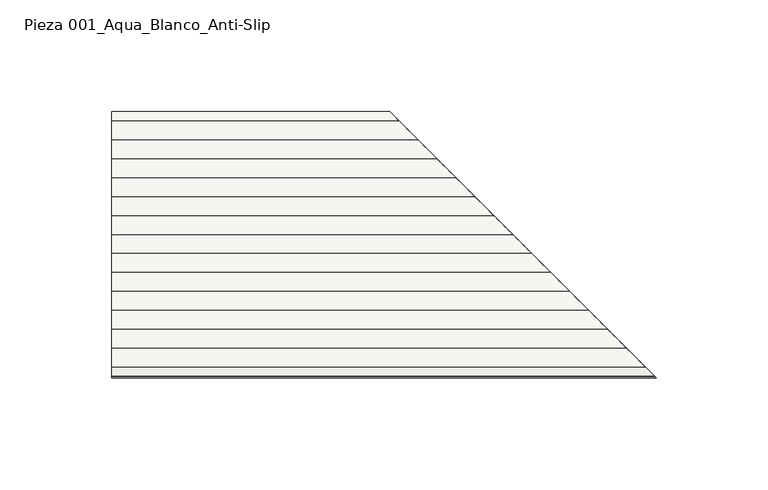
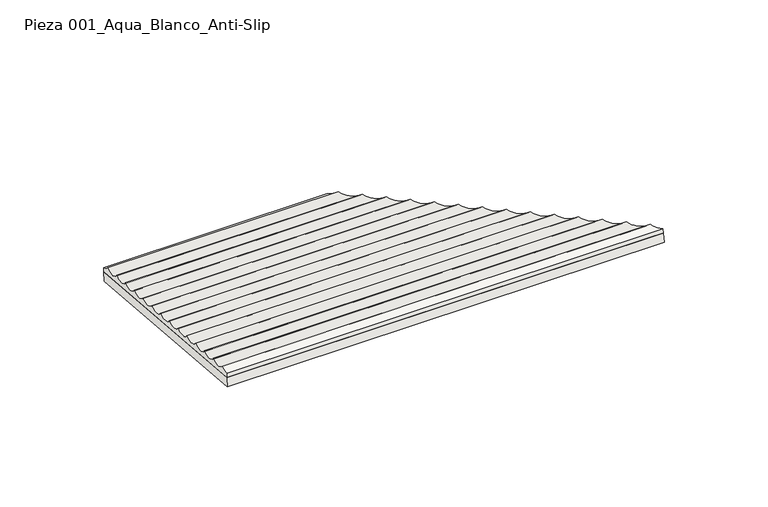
"""IFC4 building model written with IfcOpenShell, lengths in millimetres: slab geometry, ROSA GRES_001 (corte) : Pieza 001_Aqua_Blanco_Anti-Slip."""

import ifcopenshell
import ifcopenshell.guid

model = None  # the IFC model being written
_history = None  # IfcOwnerHistory: only IFC2X3 demands one
_inside = {}  # id of a spatial element -> (the spatial element, [elements in it])
_under = {}  # id of a project, library or spatial element -> (it, [spatial elements below it])
_declared = {}  # id of a project -> (the project, [libraries it declares])
_typed = {}  # id of a type object -> (the type object, [elements of that type])
_made_of = {}  # id of a material, layer set ... -> (it, [elements and type objects made of it])


def new_model(schema):
    """Start an empty IFC model of exactly this schema.

    Asked for "IFC4X3", IfcOpenShell would pick the latest addendum, in which some entities
    have other attributes; the version numbers below select the first issue.
    IFC2X3 requires an IfcOwnerHistory on every rooted entity: one is made here for all.
    """
    global model, _history
    if schema == "IFC4X3":
        model = ifcopenshell.file(schema_version=(4, 3, 0, 0))
    else:
        model = ifcopenshell.file(schema=schema)
    _inside.clear()
    _under.clear()
    _declared.clear()
    _typed.clear()
    _made_of.clear()
    _history = None
    if model.schema == "IFC2X3":
        org = make("IfcOrganization", Name="unknown")
        user = make(
            "IfcPersonAndOrganization",
            ThePerson=make("IfcPerson", FamilyName="unknown"),
            TheOrganization=org,
        )
        app = make(
            "IfcApplication",
            ApplicationDeveloper=org,
            Version="unknown",
            ApplicationFullName="unknown",
            ApplicationIdentifier="unknown",
        )
        _history = make(
            "IfcOwnerHistory",
            OwningUser=user,
            OwningApplication=app,
            ChangeAction="ADDED",
            CreationDate=0,
        )
    return model


def make(cls, **values):
    """One entity of the class cls with the attributes given. An attribute that is None is left unset."""
    return model.create_entity(
        cls, **{name: value for name, value in values.items() if value is not None}
    )


def rooted(cls, **values):
    """An entity with a GlobalId (a new one), such as an element, a storey or a relation."""
    return make(cls, GlobalId=ifcopenshell.guid.new(), OwnerHistory=_history, **values)


def si_unit(unit_type, name, prefix=None):
    """IfcSIUnit, for example si_unit("LENGTHUNIT", "METRE", prefix="MILLI")."""
    return make("IfcSIUnit", UnitType=unit_type, Prefix=prefix, Name=name)


def assignment(units):
    """IfcUnitAssignment: the units of a project."""
    return None if units is None else make("IfcUnitAssignment", Units=units)


def point(xyz):
    """IfcCartesianPoint."""
    return None if xyz is None else make("IfcCartesianPoint", Coordinates=xyz)


def direction(xyz):
    """IfcDirection."""
    return None if xyz is None else make("IfcDirection", DirectionRatios=xyz)


def frame(location, z_axis=None, x_axis=None):
    """IfcAxis2Placement3D, a coordinate frame: its origin and axes. An axis left out is left unset."""
    return make(
        "IfcAxis2Placement3D",
        Location=point(location),
        Axis=direction(z_axis),
        RefDirection=direction(x_axis),
    )


def origin():
    """The frame at (0, 0, 0) with its axes left unset."""
    return frame((0.0, 0.0, 0.0))


def place(relative_to, where):
    """IfcLocalPlacement: puts the frame where relative to a parent placement (None: the world)."""
    return make(
        "IfcLocalPlacement", PlacementRelTo=relative_to, RelativePlacement=where
    )


def context(
    kind, dimensions, precision=None, world=None, true_north=None, identifier=None
):
    """IfcGeometricRepresentationContext, for example the 3D "Model" context."""
    return make(
        "IfcGeometricRepresentationContext",
        ContextIdentifier=identifier,
        ContextType=kind,
        CoordinateSpaceDimension=dimensions,
        Precision=precision,
        WorldCoordinateSystem=world,
        TrueNorth=true_north,
    )


def project(units=None, contexts=None):
    """IfcProject with its units and contexts."""
    return rooted(
        "IfcProject",
        Name="project",
        RepresentationContexts=contexts,
        UnitsInContext=assignment(units),
    )


def spatial(cls, under=None, at=None, **own):
    """A site, building, storey or space (cls), placed at a placement, below another one or the project."""
    s = rooted(cls, ObjectPlacement=at, **own)
    if under is not None:
        _under.setdefault(under.id(), (under, []))[1].append(s)
    return s


def polyline(points):
    """IfcPolyline through the points."""
    return make("IfcPolyline", Points=[point(p) for p in points])


def circle_curve(where, radius):
    """IfcCircle in the frame where."""
    return make("IfcCircle", Position=where, Radius=radius)


def ellipse_curve(where, semi_axis1, semi_axis2):
    """IfcEllipse in the frame where."""
    return make(
        "IfcEllipse", Position=where, SemiAxis1=semi_axis1, SemiAxis2=semi_axis2
    )


def faces_of(points, faces, orient=None, outer=None):
    """IfcFace entities. A face is a list of loops; a loop is a list of indices into points, from 0.

    orient and outer hold one flag for each loop. By default every Orientation is true, the
    first loop of a face is its IfcFaceOuterBound and the others are IfcFaceBound.
    """
    made = []
    for i, loops in enumerate(faces):
        bounds = []
        for j, loop in enumerate(loops):
            is_outer = j == 0 if outer is None else outer[i][j]
            bounds.append(
                make(
                    "IfcFaceOuterBound" if is_outer else "IfcFaceBound",
                    Bound=make("IfcPolyLoop", Polygon=[points[k] for k in loop]),
                    Orientation=True if orient is None else orient[i][j],
                )
            )
        made.append(make("IfcFace", Bounds=bounds))
    return made


def faceted_brep(points, faces, orient=None, outer=None, voids=None):
    """IfcFacetedBrep: a solid bounded by flat faces; with voids (closed shells), ...WithVoids."""
    shared = [point(p) for p in points]
    hull = make("IfcClosedShell", CfsFaces=faces_of(shared, faces, orient, outer))
    if voids is None:
        return make("IfcFacetedBrep", Outer=hull)
    return make(
        "IfcFacetedBrepWithVoids",
        Outer=hull,
        Voids=[
            make(cls, CfsFaces=faces_of(shared, fs, o, b)) for cls, fs, o, b in voids
        ],
    )


def shape(context_of_items, identifier, shape_type, items):
    """IfcShapeRepresentation: the items that make up one representation, for example the "Body"."""
    return make(
        "IfcShapeRepresentation",
        ContextOfItems=context_of_items,
        RepresentationIdentifier=identifier,
        RepresentationType=shape_type,
        Items=items,
    )


def source(mapping_origin, context_of_items, identifier, shape_type, items):
    """IfcRepresentationMap: a shape defined once, which mapped items show again and again."""
    return make(
        "IfcRepresentationMap",
        MappingOrigin=mapping_origin,
        MappedRepresentation=shape(context_of_items, identifier, shape_type, items),
    )


def transform(
    local_origin,
    x_axis=None,
    y_axis=None,
    z_axis=None,
    scale=None,
    scale2=None,
    scale3=None,
    uniform=True,
):
    """IfcCartesianTransformationOperator3D, or its non-uniform kind. x_axis, y_axis, z_axis: its Axis1, 2, 3."""
    if uniform:
        return make(
            "IfcCartesianTransformationOperator3D",
            Axis1=direction(x_axis),
            Axis2=direction(y_axis),
            LocalOrigin=point(local_origin),
            Scale=scale,
            Axis3=direction(z_axis),
        )
    return make(
        "IfcCartesianTransformationOperator3DnonUniform",
        Axis1=direction(x_axis),
        Axis2=direction(y_axis),
        LocalOrigin=point(local_origin),
        Scale=scale,
        Axis3=direction(z_axis),
        Scale2=scale2,
        Scale3=scale3,
    )


def mapped(mapping_source, mapping_target):
    """IfcMappedItem: shows the shape of a source again, moved by a transform."""
    return make(
        "IfcMappedItem", MappingSource=mapping_source, MappingTarget=mapping_target
    )


def made_of(thing, what):
    """Note that an element or type object is made of a material, layer set ...; save() writes the relation."""
    if what is not None:
        _made_of.setdefault(what.id(), (what, []))[1].append(thing)
    return thing


def element(
    cls,
    number,
    at=None,
    inside=None,
    cuts=None,
    type_object=None,
    material=None,
    context=None,
    identifier="Body",
    shape_type=None,
    held_by="IfcProductDefinitionShape",
    body=None,
    shapes=None,
    **own,
):
    """One element of the class cls, such as IfcWall. Its Tag is "e" and its number.

    at: its placement. inside: the storey or other place that contains it. cuts: it is an
    opening in that element (IfcRelVoidsElement). A single representation is given by context,
    identifier, shape_type and body (its items); several are given by shapes. held_by: the class
    of the entity that holds the representations. save() writes the other relations.
    """
    e = rooted(cls, Tag="e%d" % number, ObjectPlacement=at, **own)
    if body is not None:
        shapes = [shape(context, identifier, shape_type, body)]
    if shapes is not None:
        e.Representation = make(held_by, Representations=shapes)
    if inside is not None:
        _inside.setdefault(inside.id(), (inside, []))[1].append(e)
    if cuts is not None:
        rooted(
            "IfcRelVoidsElement", RelatingBuildingElement=cuts, RelatedOpeningElement=e
        )
    if type_object is not None:
        _typed.setdefault(type_object.id(), (type_object, []))[1].append(e)
    return made_of(e, material)


def aggregate(whole, parts):
    """IfcRelAggregates: a whole, such as a stair, and the parts it consists of."""
    return rooted("IfcRelAggregates", RelatingObject=whole, RelatedObjects=parts)


def save(model, path):
    """Write the relations noted so far, then the file.

    IfcRelAggregates (storeys below a building ...), IfcRelContainedInSpatialStructure (elements
    in a storey), IfcRelDefinesByType, IfcRelAssociatesMaterial and IfcRelDeclares: one each for
    every whole, place, type object, material and project.
    """
    for whole, parts in _under.values():
        aggregate(whole, parts)
    for where, things in _inside.values():
        rooted(
            "IfcRelContainedInSpatialStructure",
            RelatedElements=things,
            RelatingStructure=where,
        )
    for kind, things in _typed.values():
        rooted("IfcRelDefinesByType", RelatedObjects=things, RelatingType=kind)
    for what, things in _made_of.values():
        rooted("IfcRelAssociatesMaterial", RelatedObjects=things, RelatingMaterial=what)
    for by, libraries in _declared.values():
        rooted("IfcRelDeclares", RelatingContext=by, RelatedDefinitions=libraries)
    model.write(path)


def plane_surface(at):
    """IfcPlane: the flat surface through the origin of the frame at, square to its z axis."""
    return make("IfcPlane", Position=at)


def revolved_surface(curve, axis_point, axis_direction):
    """IfcSurfaceOfRevolution: the curve turned about the line through axis_point along axis_direction."""
    return make(
        "IfcSurfaceOfRevolution",
        SweptCurve=make("IfcArbitraryOpenProfileDef", ProfileType="CURVE", Curve=curve),
        AxisPosition=make("IfcAxis1Placement", Location=point(axis_point), Axis=direction(axis_direction)),
    )


def advanced_brep(points, edges, surfaces, faces):
    """IfcAdvancedBrep: a solid bounded by faces that lie on surfaces and meet in shared edges.

    An edge is (start, end): straight between two places in points (the first is 0);
    or (start, end, curve); or (start, end, curve, False) where it runs against its curve.
    A face is (place in surfaces, loops), or (place, loops, False) where it looks against
    its surface's normal. A loop lists edges by number (the first is 1), with a minus sign
    where the edge is run from its end to its start. The first loop is the outer one.
    """
    corners = [point(p) for p in points]
    vertices = [make("IfcVertexPoint", VertexGeometry=c) for c in corners]
    made = []
    for start, end, *more in edges:
        made.append(
            make(
                "IfcEdgeCurve",
                EdgeStart=vertices[start],
                EdgeEnd=vertices[end],
                EdgeGeometry=more[0] if more else make("IfcPolyline", Points=[corners[start], corners[end]]),
                SameSense=more[1] if len(more) > 1 else True,
            )
        )
    hull = []
    for where, loops, *sense in faces:
        bounds = []
        for j, loop in enumerate(loops):
            ring = [make("IfcOrientedEdge", EdgeElement=made[abs(k) - 1], Orientation=k > 0) for k in loop]
            bounds.append(
                make(
                    "IfcFaceOuterBound" if j == 0 else "IfcFaceBound",
                    Bound=make("IfcEdgeLoop", EdgeList=ring),
                    Orientation=True,
                )
            )
        hull.append(make("IfcAdvancedFace", Bounds=bounds, FaceSurface=surfaces[where], SameSense=sense[0] if sense else True))
    return make("IfcAdvancedBrep", Outer=make("IfcClosedShell", CfsFaces=hull))


def pieza_001_aqua_blanco_anti_slip_24dbb15d(model_context):
    return source(origin(), model_context, "Body", "SolidModel", [
        faceted_brep([(0.0, -119.2261842, 9.6540866), (0.0, -118.820549, 14.6376055), (0.0, -0.2131992, 4.9835188), (0.0, -0.6188345, 0.0), (124.8926503, -0.6188345, 0.0), (243.5, -119.2261842, 9.6540866), (124.487015, -0.2131992, 4.9835188), (243.0943647, -118.820549, 14.6376055)], [[[0, 1, 2, 3]], [[3, 4, 5, 0]], [[2, 6, 4, 3]], [[0, 5, 7, 1]], [[1, 7, 6, 2]], [[4, 6, 7, 5]]]),
        advanced_brep(
        [(0.0, -118.820549, 14.6376055), (0.0, -118.6073497, 17.2569102), (0.0, -114.2125181, 18.8637671), (0.0, -105.7405645, 18.1741895), (0.0, -97.268611, 17.4846119), (0.0, -88.7966574, 16.7950343), (0.0, -80.3247039, 16.1054567), (0.0, -71.8527503, 15.415879), (0.0, -63.3807968, 14.7263014), (0.0, -54.9088432, 14.0367238), (0.0, -46.4368897, 13.3471462), (0.0, -37.9649361, 12.6575686), (0.0, -29.4929825, 11.967991), (0.0, -21.021029, 11.2784133), (0.0, -12.5490754, 10.5888357), (0.0, -4.0771219, 9.8992581), (0.0, 0.0, 7.6028236), (0.0, -0.2131992, 4.9835188), (124.487015, -0.2131992, 4.9835188), (243.0943647, -118.820549, 14.6376055), (124.2738158, 0.0, 7.6028236), (128.3509377, -4.0771219, 9.8992581), (136.8228912, -12.5490754, 10.5888357), (145.2948448, -21.021029, 11.2784133), (153.7667983, -29.4929825, 11.967991), (162.2387519, -37.9649361, 12.6575686), (170.7107054, -46.4368897, 13.3471462), (179.182659, -54.9088432, 14.0367238), (187.6546125, -63.3807968, 14.7263014), (196.1265661, -71.8527503, 15.415879), (204.5985196, -80.3247039, 16.1054567), (213.0704732, -88.7966574, 16.7950343), (221.5424268, -97.268611, 17.4846119), (230.0143803, -105.7405645, 18.1741895), (238.4863339, -114.2125181, 18.8637671), (242.8811655, -118.6073497, 17.2569102)],
        [
            (0, 1),
            (1, 2, circle_curve(frame((0.0, -118.1537465, 22.8297505), z_axis=(1.0, 0.0, 0.0), x_axis=(0.0, -1.0, 0.0)), 5.5912705)),
            (2, 3, circle_curve(frame((0.0, -109.6817929, 22.1401729), z_axis=(1.0, 0.0, 0.0), x_axis=(0.0, -1.0, 0.0)), 5.5912705)),
            (3, 4, circle_curve(frame((0.0, -101.2098393, 21.4505953), z_axis=(1.0, 0.0, 0.0), x_axis=(0.0, -1.0, 0.0)), 5.5912705)),
            (4, 5, circle_curve(frame((0.0, -92.7378858, 20.7610177), z_axis=(1.0, 0.0, 0.0), x_axis=(0.0, -1.0, 0.0)), 5.5912705)),
            (5, 6, circle_curve(frame((0.0, -84.2659322, 20.0714401), z_axis=(1.0, 0.0, 0.0), x_axis=(0.0, -1.0, 0.0)), 5.5912705)),
            (6, 7, circle_curve(frame((0.0, -75.7939787, 19.3818624), z_axis=(1.0, 0.0, 0.0), x_axis=(0.0, -1.0, 0.0)), 5.5912705)),
            (7, 8, circle_curve(frame((0.0, -67.3220251, 18.6922848), z_axis=(1.0, 0.0, 0.0), x_axis=(0.0, -1.0, 0.0)), 5.5912705)),
            (8, 9, circle_curve(frame((0.0, -58.8500716, 18.0027072), z_axis=(1.0, 0.0, 0.0), x_axis=(0.0, -1.0, 0.0)), 5.5912705)),
            (9, 10, circle_curve(frame((0.0, -50.378118, 17.3131296), z_axis=(1.0, 0.0, 0.0), x_axis=(0.0, -1.0, 0.0)), 5.5912705)),
            (10, 11, circle_curve(frame((0.0, -41.9061645, 16.623552), z_axis=(1.0, 0.0, 0.0), x_axis=(0.0, -1.0, 0.0)), 5.5912705)),
            (11, 12, circle_curve(frame((0.0, -33.4342109, 15.9339744), z_axis=(1.0, 0.0, 0.0), x_axis=(0.0, -1.0, 0.0)), 5.5912705)),
            (12, 13, circle_curve(frame((0.0, -24.9622574, 15.2443968), z_axis=(1.0, 0.0, 0.0), x_axis=(0.0, -1.0, 0.0)), 5.5912705)),
            (13, 14, circle_curve(frame((0.0, -16.4903038, 14.5548191), z_axis=(1.0, 0.0, 0.0), x_axis=(0.0, -1.0, 0.0)), 5.5912705)),
            (14, 15, circle_curve(frame((0.0, -8.0183503, 13.8652415), z_axis=(1.0, 0.0, 0.0), x_axis=(0.0, -1.0, 0.0)), 5.5912705)),
            (15, 16, circle_curve(frame((0.0, 0.4536033, 13.1756639), z_axis=(1.0, 0.0, 0.0), x_axis=(0.0, -1.0, 0.0)), 5.5912705)),
            (16, 17),
            (17, 0),
            (17, 18),
            (18, 19),
            (19, 0),
            (16, 20),
            (20, 18),
            (15, 21),
            (21, 20, ellipse_curve(frame((123.8202125, 0.4536033, 13.1756639), z_axis=(0.7071067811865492, 0.7071067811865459, 0.0), x_axis=(0.7071067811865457, -0.7071067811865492, 0.0)), 7.9072505, 5.5912705)),
            (14, 22),
            (22, 21, ellipse_curve(frame((132.2921661, -8.0183503, 13.8652415), z_axis=(0.7071067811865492, 0.7071067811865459, 0.0), x_axis=(0.7071067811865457, -0.7071067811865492, 0.0)), 7.9072505, 5.5912705)),
            (13, 23),
            (23, 22, ellipse_curve(frame((140.7641196, -16.4903038, 14.5548191), z_axis=(0.7071067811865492, 0.7071067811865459, 0.0), x_axis=(0.7071067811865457, -0.7071067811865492, 0.0)), 7.9072505, 5.5912705)),
            (12, 24),
            (24, 23, ellipse_curve(frame((149.2360732, -24.9622574, 15.2443968), z_axis=(0.7071067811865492, 0.7071067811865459, 0.0), x_axis=(0.7071067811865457, -0.7071067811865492, 0.0)), 7.9072505, 5.5912705)),
            (11, 25),
            (25, 24, ellipse_curve(frame((157.7080267, -33.4342109, 15.9339744), z_axis=(0.7071067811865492, 0.7071067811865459, 0.0), x_axis=(0.7071067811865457, -0.7071067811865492, 0.0)), 7.9072505, 5.5912705)),
            (10, 26),
            (26, 25, ellipse_curve(frame((166.1799803, -41.9061645, 16.623552), z_axis=(0.7071067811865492, 0.7071067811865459, 0.0), x_axis=(0.7071067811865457, -0.7071067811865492, 0.0)), 7.9072505, 5.5912705)),
            (9, 27),
            (27, 26, ellipse_curve(frame((174.6519338, -50.378118, 17.3131296), z_axis=(0.7071067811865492, 0.7071067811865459, 0.0), x_axis=(0.7071067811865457, -0.7071067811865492, 0.0)), 7.9072505, 5.5912705)),
            (8, 28),
            (28, 27, ellipse_curve(frame((183.1238874, -58.8500716, 18.0027072), z_axis=(0.7071067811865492, 0.7071067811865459, 0.0), x_axis=(0.7071067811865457, -0.7071067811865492, 0.0)), 7.9072505, 5.5912705)),
            (7, 29),
            (29, 28, ellipse_curve(frame((191.5958409, -67.3220251, 18.6922848), z_axis=(0.7071067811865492, 0.7071067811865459, 0.0), x_axis=(0.7071067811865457, -0.7071067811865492, 0.0)), 7.9072505, 5.5912705)),
            (6, 30),
            (30, 29, ellipse_curve(frame((200.0677945, -75.7939787, 19.3818624), z_axis=(0.7071067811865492, 0.7071067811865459, 0.0), x_axis=(0.7071067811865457, -0.7071067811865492, 0.0)), 7.9072505, 5.5912705)),
            (5, 31),
            (31, 30, ellipse_curve(frame((208.539748, -84.2659322, 20.0714401), z_axis=(0.7071067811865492, 0.7071067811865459, 0.0), x_axis=(0.7071067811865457, -0.7071067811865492, 0.0)), 7.9072505, 5.5912705)),
            (4, 32),
            (32, 31, ellipse_curve(frame((217.0117016, -92.7378858, 20.7610177), z_axis=(0.7071067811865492, 0.7071067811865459, 0.0), x_axis=(0.7071067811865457, -0.7071067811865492, 0.0)), 7.9072505, 5.5912705)),
            (3, 33),
            (33, 32, ellipse_curve(frame((225.4836551, -101.2098393, 21.4505953), z_axis=(0.7071067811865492, 0.7071067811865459, 0.0), x_axis=(0.7071067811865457, -0.7071067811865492, 0.0)), 7.9072505, 5.5912705)),
            (2, 34),
            (34, 33, ellipse_curve(frame((233.9556087, -109.6817929, 22.1401729), z_axis=(0.7071067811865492, 0.7071067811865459, 0.0), x_axis=(0.7071067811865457, -0.7071067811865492, 0.0)), 7.9072505, 5.5912705)),
            (1, 35),
            (35, 34, ellipse_curve(frame((242.4275622, -118.1537465, 22.8297505), z_axis=(0.7071067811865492, 0.7071067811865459, 0.0), x_axis=(0.7071067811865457, -0.7071067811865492, 0.0)), 7.9072505, 5.5912705)),
            (19, 35),
        ],
        [
            plane_surface(frame((0.0, 0.0, 0.0), z_axis=(-1.0, 0.0, 0.0), x_axis=(0.0, 0.0, 1.0))),
            plane_surface(frame((0.0, -118.820549, 14.6376055), z_axis=(0.0, -0.08112705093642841, -0.9967037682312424), x_axis=(1.0, 0.0, 0.0))),
            plane_surface(frame((0.0, -0.2131992, 4.9835188), z_axis=(0.0, 0.9967037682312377, -0.08112705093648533), x_axis=(1.0, 0.0, 0.0))),
            revolved_surface(polyline([(129.4114829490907, -5.1376672, 13.1756639), (0.0, -5.1376672, 13.1756639)]), (0.0, 0.4536033, 13.1756639), (1.0, 0.0, 0.0)),
            revolved_surface(polyline([(137.8834365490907, -13.6096208, 13.8652415), (0.0, -13.6096208, 13.8652415)]), (0.0, -8.0183503, 13.8652415), (1.0, 0.0, 0.0)),
            revolved_surface(polyline([(146.3553900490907, -22.0815743, 14.5548191), (0.0, -22.0815743, 14.5548191)]), (0.0, -16.4903038, 14.5548191), (1.0, 0.0, 0.0)),
            revolved_surface(polyline([(154.8273436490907, -30.5535279, 15.2443968), (0.0, -30.5535279, 15.2443968)]), (0.0, -24.9622574, 15.2443968), (1.0, 0.0, 0.0)),
            revolved_surface(polyline([(163.2992971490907, -39.0254814, 15.9339744), (0.0, -39.0254814, 15.9339744)]), (0.0, -33.4342109, 15.9339744), (1.0, 0.0, 0.0)),
            revolved_surface(polyline([(171.7712507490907, -47.497435, 16.623552), (0.0, -47.497435, 16.623552)]), (0.0, -41.9061645, 16.623552), (1.0, 0.0, 0.0)),
            revolved_surface(polyline([(180.2432042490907, -55.9693885, 17.3131296), (0.0, -55.9693885, 17.3131296)]), (0.0, -50.378118, 17.3131296), (1.0, 0.0, 0.0)),
            revolved_surface(polyline([(188.7151578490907, -64.4413421, 18.0027072), (0.0, -64.4413421, 18.0027072)]), (0.0, -58.8500716, 18.0027072), (1.0, 0.0, 0.0)),
            revolved_surface(polyline([(197.1871113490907, -72.9132956, 18.6922848), (0.0, -72.9132956, 18.6922848)]), (0.0, -67.3220251, 18.6922848), (1.0, 0.0, 0.0)),
            revolved_surface(polyline([(205.6590649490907, -81.3852492, 19.3818624), (0.0, -81.3852492, 19.3818624)]), (0.0, -75.7939787, 19.3818624), (1.0, 0.0, 0.0)),
            revolved_surface(polyline([(214.1310184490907, -89.85720269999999, 20.0714401), (0.0, -89.85720269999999, 20.0714401)]), (0.0, -84.2659322, 20.0714401), (1.0, 0.0, 0.0)),
            revolved_surface(polyline([(222.6029720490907, -98.3291563, 20.7610177), (0.0, -98.3291563, 20.7610177)]), (0.0, -92.7378858, 20.7610177), (1.0, 0.0, 0.0)),
            revolved_surface(polyline([(231.0749255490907, -106.8011098, 21.4505953), (0.0, -106.8011098, 21.4505953)]), (0.0, -101.2098393, 21.4505953), (1.0, 0.0, 0.0)),
            revolved_surface(polyline([(239.5468791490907, -115.27306340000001, 22.1401729), (0.0, -115.27306340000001, 22.1401729)]), (0.0, -109.6817929, 22.1401729), (1.0, 0.0, 0.0)),
            revolved_surface(polyline([(248.0188326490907, -123.74501699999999, 22.8297505), (0.0, -123.74501699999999, 22.8297505)]), (0.0, -118.1537465, 22.8297505), (1.0, 0.0, 0.0)),
            plane_surface(frame((0.0, -118.6073497, 17.2569102), z_axis=(0.0, -0.9967037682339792, 0.08112705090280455), x_axis=(1.0, 0.0, 0.0))),
            plane_surface(frame((244.0, -119.7261842, 104.9871832), z_axis=(0.7071067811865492, 0.7071067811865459, 0.0), x_axis=(0.0, 0.0, -1.0))),
        ],
        [
            (0, [[1, 2, 3, 4, 5, 6, 7, 8, 9, 10, 11, 12, 13, 14, 15, 16, 17, 18]]),
            (1, [[19, 20, 21, -18]]),
            (2, [[22, 23, -19, -17]]),
            (3, [[24, 25, -22, -16]]),
            (4, [[26, 27, -24, -15]]),
            (5, [[28, 29, -26, -14]]),
            (6, [[30, 31, -28, -13]]),
            (7, [[32, 33, -30, -12]]),
            (8, [[34, 35, -32, -11]]),
            (9, [[36, 37, -34, -10]]),
            (10, [[38, 39, -36, -9]]),
            (11, [[40, 41, -38, -8]]),
            (12, [[42, 43, -40, -7]]),
            (13, [[44, 45, -42, -6]]),
            (14, [[46, 47, -44, -5]]),
            (15, [[48, 49, -46, -4]]),
            (16, [[50, 51, -48, -3]]),
            (17, [[52, 53, -50, -2]]),
            (18, [[-21, 54, -52, -1]]),
            (19, [[-23, -25, -27, -29, -31, -33, -35, -37, -39, -41, -43, -45, -47, -49, -51, -53, -54, -20]]),
        ],
    ),
    ])


if __name__ == "__main__":
    model = new_model("IFC4")
    model_context = context("Model", 3, world=origin())
    ifc_project = project(units=[si_unit("LENGTHUNIT", "METRE", prefix="MILLI")], contexts=[model_context])
    site = spatial("IfcSite", under=ifc_project)
    building = spatial("IfcBuilding", under=site)
    placement = place(None, origin())
    pieza_001_aqua_blanco_anti_slip_shape = pieza_001_aqua_blanco_anti_slip_24dbb15d(model_context)
    element("IfcSlab", 1, ObjectType="ROSA GRES_001 (corte) : Pieza 001_Aqua_Blanco_Anti-Slip", at=placement, inside=building, context=model_context, shape_type="MappedRepresentation", body=[
        mapped(pieza_001_aqua_blanco_anti_slip_shape, transform((0.0, 0.0, 0.0), x_axis=(1.0, 0.0, 0.0), y_axis=(0.0, 1.0, 0.0), z_axis=(0.0, 0.0, 1.0))),
    ])
    save(model, "model.ifc")
